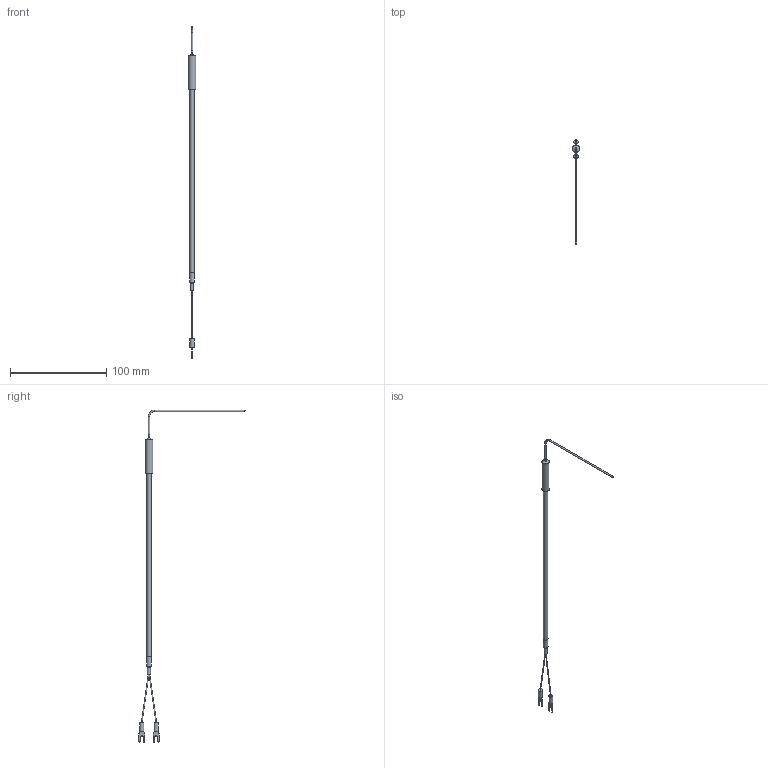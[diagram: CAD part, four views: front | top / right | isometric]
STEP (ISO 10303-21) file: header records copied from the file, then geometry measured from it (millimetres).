
FILE_DESCRIPTION (( 'STEP AP203' ), '1' );
FILE_NAME ('YIT111S-4(0).STEP', '2024-05-29T07:52:16', ( '' ), ( '' ), 'SwSTEP 2.0', 'SolidWorks 2021', '' );
FILE_SCHEMA (( 'CONFIG_CONTROL_DESIGN' ));
Length unit declared in the file: millimetre
Products named in the file (1): YIT111S-4(0)
Bounding box: 8 x 110.43 x 345.8 mm (x, y, z)
Volume: 6158.8 mm3; surface area: 5520.1 mm2
Topology: 1 solids, 1 shells, 70 faces, 166 edges, 107 vertices
Faces by surface type: plane 35, cylinder 22, bspline 8, torus 3, cone 2
Full cylindrical faces by diameter (mm): 1.6 x2, 3.16 x1, 4.5 x2, 4.8 x1, 5 x1, 8 x1
Entity records: 2320 total; most frequent: CARTESIAN_POINT 706, DIRECTION 312, ORIENTED_EDGE 296, EDGE_CURVE 148, AXIS2_PLACEMENT_3D 113, VERTEX_POINT 104, EDGE_LOOP 94, LINE 86
